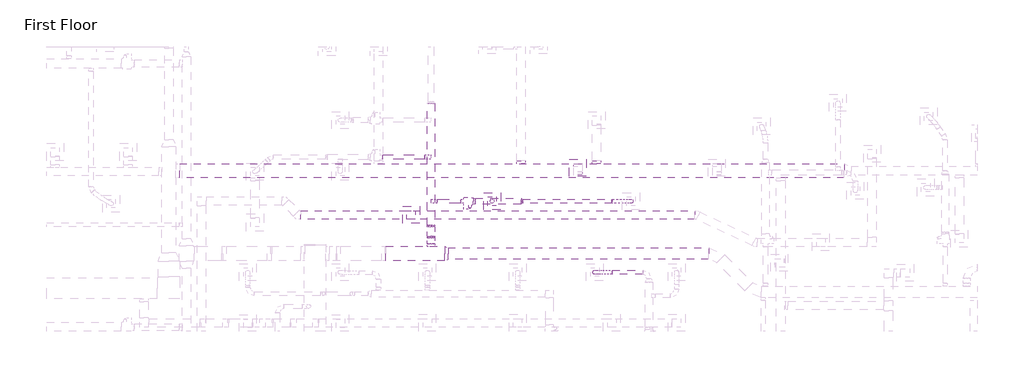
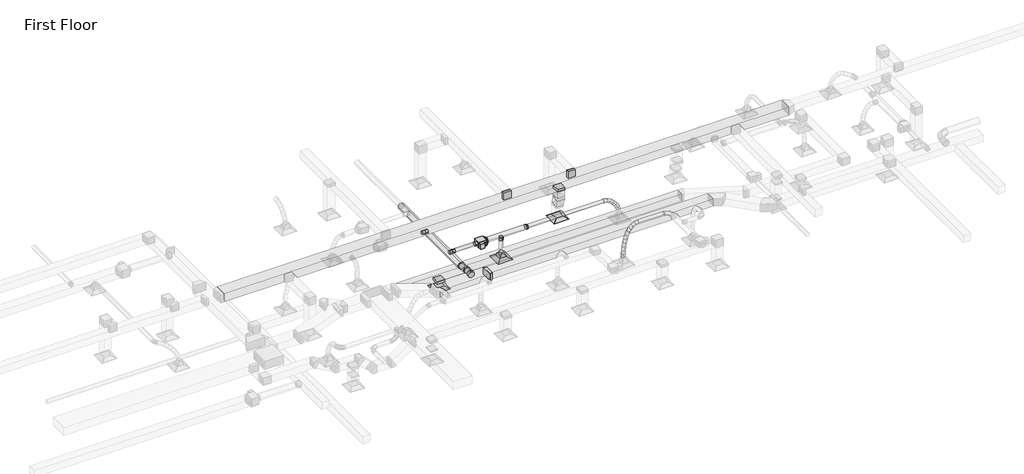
# One storey, part 50 of 61: 18 duct segments, 14 duct fittings, 3 air terminals, 1 proxy.
"""IFC4 building model written with IfcOpenShell, lengths in millimetres."""

from ifc_helpers import new_model, si_unit, point, frame, frame_2d, origin, place, context, project, spatial, polyline, circle_curve, ellipse_curve, trimmed, segment, composite_curve, outline, extrude, transform, mapped, element, save
from ifc_brep_helpers import plane_surface, cylinder_surface, advanced_brep
from components import m_exhaust_grill_er_600_x_600_face_300_x_300_connection_ff221211, m_vav_unit_single_duct_150_mm_ffdab17b, m_rectangular_takeoff_standard_c00386d1, m_rectangular_takeoff_standard_b44bfa45, m_rectangular_transition_angle_45_degree_130e6ca1, m_rectangular_to_round_transition_angle_45_degree_8f201c83, m_rectangular_to_round_transition_angle_45_degree_1b7ae117, m_round_elbow_1_5_d_46442800, m_round_takeoff_standard_e1559ea3, m_round_takeoff_standard_ce92a222, m_round_takeoff_standard_cf312e37, m_round_takeoff_standard_9070d994, m_round_transition_angle_45_degree_6d7b59ce

model = new_model("IFC4")

# Units and contexts
model_context = context("Model", 3, world=origin())
ifc_project = project(units=[si_unit("LENGTHUNIT", "METRE", prefix="MILLI")], contexts=[model_context])

# Site, building, storey
site = spatial("IfcSite", under=ifc_project)
building = spatial("IfcBuilding", under=site)
storey = spatial("IfcBuildingStorey", under=building, Name="First Floor", Elevation=0.0)

# Air terminals
placement = place(None, origin())
m_exhaust_grill_er_600_x_600_face_300_x_300_connection_shape = m_exhaust_grill_er_600_x_600_face_300_x_300_connection_ff221211(model_context)
element("IfcAirTerminal", 1, ObjectType="M_Exhaust Grill : ER-600 x 600 Face 300 x 300 Connection", at=placement, inside=storey, context=model_context, shape_type="MappedRepresentation", body=[
    mapped(m_exhaust_grill_er_600_x_600_face_300_x_300_connection_shape, transform((-31620.2006919, 45658.3786762, 2680.0), x_axis=(1.0, 0.0, 0.0), y_axis=(0.0, 1.0, 0.0), z_axis=(0.0, 0.0, 1.0))),
])
element("IfcAirTerminal", 2, ObjectType="M_Return Register : RR-600 x 600 Face 300 x 300 Connection", at=placement, inside=storey, context=model_context, shape_type="MappedRepresentation", body=[
    mapped(m_exhaust_grill_er_600_x_600_face_300_x_300_connection_shape, transform((-25759.2936376, 47318.7926945, 2680.0), x_axis=(1.0, 0.0, 0.0), y_axis=(0.0, 1.0, 0.0), z_axis=(0.0, 0.0, 1.0))),
])
element("IfcAirTerminal", 3, ObjectType="M_Supply Diffuser : SD-600 x 600 Face 300 x 300 Connection", at=placement, inside=storey, context=model_context, shape_type="MappedRepresentation", body=[
    mapped(m_exhaust_grill_er_600_x_600_face_300_x_300_connection_shape, transform((-28770.9396654, 46140.3464892, 2680.0), x_axis=(1.0, 0.0, 0.0), y_axis=(0.0, 1.0, 0.0), z_axis=(0.0, 0.0, 1.0))),
])

# Proxy
m_vav_unit_single_duct_150_mm_shape = m_vav_unit_single_duct_150_mm_ffdab17b(model_context)
element("IfcBuildingElementProxy", 4, Name="M_VAV Unit - Single Duct : 150 mm", ObjectType="M_VAV Unit - Single Duct : 150 mm", at=placement, inside=storey, context=model_context, shape_type="MappedRepresentation", body=[
    mapped(m_vav_unit_single_duct_150_mm_shape, transform((-29770.9396654, 46140.3464892, 3550.1), x_axis=(1.0, 0.0, 0.0), y_axis=(0.0, 1.0, 0.0), z_axis=(0.0, 0.0, 1.0))),
])

# Duct fittings
m_rectangular_takeoff_standard_shape = m_rectangular_takeoff_standard_c00386d1(model_context)
element("IfcDuctFitting", 5, ObjectType="M_Rectangular Takeoff : Standard", at=placement, inside=storey, context=model_context, shape_type="MappedRepresentation", body=[
    mapped(m_rectangular_takeoff_standard_shape, transform((-25759.2936376, 47211.3321421, 4084.5), x_axis=(0.0, 0.0, -1.0), y_axis=(0.0, 1.0, 0.0), z_axis=(1.0, 0.0, 0.0))),
])
element("IfcDuctFitting", 6, ObjectType="M_Rectangular Takeoff : Standard", at=placement, inside=storey, context=model_context, shape_type="MappedRepresentation", body=[
    mapped(m_rectangular_takeoff_standard_shape, transform((-31620.2006919, 45658.3786762, 3050.0), x_axis=(0.0, 0.0, -1.0), y_axis=(1.0, 0.0, 0.0), z_axis=(0.0, -1.0, 0.0))),
])
m_rectangular_takeoff_standard_2_shape = m_rectangular_takeoff_standard_b44bfa45(model_context)
element("IfcDuctFitting", 7, ObjectType="M_Rectangular Takeoff : Standard", at=placement, inside=storey, context=model_context, shape_type="MappedRepresentation", body=[
    mapped(m_rectangular_takeoff_standard_2_shape, transform((-27752.9739655, 47461.3321421, 4259.5), x_axis=(0.0, 1.0, 0.0), y_axis=(1.0, 0.0, 0.0), z_axis=(0.0, 0.0, -1.0))),
])
element("IfcDuctFitting", 8, ObjectType="M_Rectangular Takeoff : Standard", at=placement, inside=storey, context=model_context, shape_type="MappedRepresentation", body=[
    mapped(m_rectangular_takeoff_standard_2_shape, transform((-25098.324941, 47461.3321421, 4259.5), x_axis=(0.0, 1.0, 0.0), y_axis=(1.0, 0.0, 0.0), z_axis=(0.0, 0.0, -1.0))),
])
m_rectangular_transition_angle_45_degree_shape = m_rectangular_transition_angle_45_degree_130e6ca1(model_context)
element("IfcDuctFitting", 9, ObjectType="M_Rectangular Transition - Angle : 45 Degree", at=placement, inside=storey, context=model_context, shape_type="MappedRepresentation", body=[
    mapped(m_rectangular_transition_angle_45_degree_shape, transform((-30314.1170835, 44299.674982, 3659.6), x_axis=(-1.0, 0.0, 0.0), y_axis=(0.0, -1.0, 0.0), z_axis=(0.0, 0.0, 1.0))),
])
m_rectangular_to_round_transition_angle_45_degree_shape = m_rectangular_to_round_transition_angle_45_degree_8f201c83(model_context)
element("IfcDuctFitting", 10, ObjectType="M_Rectangular to Round Transition - Angle : 45 Degree", at=placement, inside=storey, context=model_context, shape_type="MappedRepresentation", body=[
    mapped(m_rectangular_to_round_transition_angle_45_degree_shape, transform((-28770.9396654, 46140.3464892, 2781.6), x_axis=(0.0, 0.0, 1.0), y_axis=(-1.0, 0.0, 0.0), z_axis=(0.0, -1.0, 0.0))),
])
m_rectangular_to_round_transition_angle_45_degree_2_shape = m_rectangular_to_round_transition_angle_45_degree_1b7ae117(model_context)
element("IfcDuctFitting", 11, ObjectType="M_Rectangular to Round Transition - Angle : 45 Degree", at=placement, inside=storey, context=model_context, shape_type="MappedRepresentation", body=[
    mapped(m_rectangular_to_round_transition_angle_45_degree_2_shape, transform((-29428.1396654, 46140.3464892, 3669.15), x_axis=(1.0, 0.0, 0.0), y_axis=(0.0, 1.0, 0.0), z_axis=(0.0, 0.0, 1.0))),
])
m_round_elbow_1_5_d_shape = m_round_elbow_1_5_d_46442800(model_context)
element("IfcDuctFitting", 12, ObjectType="M_Round Elbow : 1.5 D", at=placement, inside=storey, context=model_context, shape_type="MappedRepresentation", body=[
    mapped(m_round_elbow_1_5_d_shape, transform((-30920.6775238, 44881.055161, 3659.6), x_axis=(0.0, 1.0, 0.0), y_axis=(0.0, 0.0, -1.0), z_axis=(-1.0, 0.0, 0.0))),
])
element("IfcDuctFitting", 13, ObjectType="M_Round Elbow : 1.5 D", at=placement, inside=storey, context=model_context, shape_type="MappedRepresentation", body=[
    mapped(m_round_elbow_1_5_d_shape, transform((-30920.6775238, 45270.7666052, 3609.6), x_axis=(0.0, 0.9918697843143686, -0.12725694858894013), y_axis=(0.0, 0.12725694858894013, 0.9918697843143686), z_axis=(1.0, 0.0, 0.0))),
])
m_round_takeoff_standard_shape = m_round_takeoff_standard_e1559ea3(model_context)
element("IfcDuctFitting", 14, ObjectType="M_Round Takeoff : Standard", at=placement, inside=storey, context=model_context, shape_type="MappedRepresentation", body=[
    mapped(m_round_takeoff_standard_shape, transform((-28770.9396654, 46140.3464892, 3569.2), x_axis=(0.0, 0.0, -1.0), y_axis=(1.0, 0.0, 0.0), z_axis=(0.0, -1.0, 0.0))),
])
m_round_takeoff_standard_2_shape = m_round_takeoff_standard_ce92a222(model_context)
element("IfcDuctFitting", 15, ObjectType="M_Round Takeoff : Standard", at=placement, inside=storey, context=model_context, shape_type="MappedRepresentation", body=[
    mapped(m_round_takeoff_standard_2_shape, transform((-30920.6775238, 44549.674982, 3659.6), x_axis=(0.0, 1.0, 0.0), y_axis=(1.0, 0.0, 0.0), z_axis=(0.0, 0.0, -1.0))),
])
m_round_takeoff_standard_3_shape = m_round_takeoff_standard_cf312e37(model_context)
element("IfcDuctFitting", 16, ObjectType="M_Round Takeoff : Standard", at=placement, inside=storey, context=model_context, shape_type="MappedRepresentation", body=[
    mapped(m_round_takeoff_standard_3_shape, transform((-31035.2411773, 47690.0894014, 3659.6016929), x_axis=(-0.999999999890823, 0.0, 1.477681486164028e-05), y_axis=(0.0, 1.0000000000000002, 0.0), z_axis=(-1.477681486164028e-05, 0.0, -0.999999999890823))),
])
m_round_takeoff_standard_4_shape = m_round_takeoff_standard_9070d994(model_context)
element("IfcDuctFitting", 17, ObjectType="M_Round Takeoff : Standard", at=placement, inside=storey, context=model_context, shape_type="MappedRepresentation", body=[
    mapped(m_round_takeoff_standard_4_shape, transform((-30806.114324, 46141.1964892, 3659.6027325), x_axis=(0.9999999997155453, 0.0, 2.385182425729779e-05), y_axis=(0.0, -1.0000000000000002, 0.0), z_axis=(2.385182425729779e-05, 0.0, -0.9999999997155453))),
])
m_round_transition_angle_45_degree_shape = m_round_transition_angle_45_degree_6d7b59ce(model_context)
element("IfcDuctFitting", 18, ObjectType="M_Round Transition - Angle : 45 Degree", at=placement, inside=storey, context=model_context, shape_type="MappedRepresentation", body=[
    mapped(m_round_transition_angle_45_degree_shape, transform((-27752.9739655, 46140.3464892, 3669.2), x_axis=(1.0, 0.0, 0.0), y_axis=(0.0, 1.0, 0.0), z_axis=(0.0, 0.0, 1.0))),
])

# Duct segments
element("IfcDuctSegment", 19, ObjectType="Flex - Round", at=placement, inside=storey, context=model_context, shape_type="AdvancedBrep", body=[
    advanced_brep(
    [(-24552.9739655, 46215.3464892, 3669.2), (-24564.8586227, 46140.3464892, 3595.1476204), (-24552.9739655, 46065.3464892, 3669.2), (-24541.0893083, 46140.3464892, 3743.2523796), (-24414.657652, 46215.3464892, 3647.001632), (-24436.6091746, 46140.3464892, 3574.5648824), (-24414.657652, 46065.3464892, 3647.001632), (-24392.7061294, 46140.3464892, 3719.4383816), (-23890.7706619, 46215.3464892, 2962.6660172), (-23816.497544, 46140.3464892, 2973.0825407), (-23890.7706619, 46065.3464892, 2962.6660172), (-23965.0437797, 46140.3464892, 2952.2494937), (-24280.5326532, 46215.3464892, 3585.5927328), (-24319.0947066, 46140.3464892, 3520.7610861), (-24280.5326532, 46065.3464892, 3585.5927328), (-24241.9705997, 46140.3464892, 3650.4243796), (-24156.8273484, 46215.3464892, 3492.7526095), (-24207.3733869, 46140.3464892, 3436.914875), (-24156.8273484, 46065.3464892, 3492.7526095), (-24106.2813099, 46140.3464892, 3548.5903441), (-24049.7701174, 46215.3464892, 3376.2605692), (-24109.4892984, 46140.3464892, 3330.4043939), (-24049.7701174, 46065.3464892, 3376.2605692), (-23990.0509363, 46140.3464892, 3422.1167445), (-23965.5893396, 46215.3464892, 3243.895919), (-24032.7662559, 46140.3464892, 3209.7661798), (-23965.5893396, 46065.3464892, 3243.895919), (-23898.4124233, 46140.3464892, 3278.0256581), (-23910.5133946, 46215.3464892, 3103.4379659), (-23983.5603139, 46140.3464892, 3084.278258), (-23910.5133946, 46065.3464892, 3103.4379659), (-23837.4664752, 46140.3464892, 3122.5976739)],
    [
        (0, 1, circle_curve(frame((-24552.9739655, 46140.3464892, 3669.2), z_axis=(-0.9873650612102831, 0.0, 0.15846209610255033), x_axis=(0.0, 1.0, 0.0)), 75.0)),
        (1, 2, circle_curve(frame((-24552.9739655, 46140.3464892, 3669.2), z_axis=(-0.9873650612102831, 0.0, 0.15846209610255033), x_axis=(0.0, 1.0, 0.0)), 75.0)),
        (2, 3, circle_curve(frame((-24552.9739655, 46140.3464892, 3669.2), z_axis=(-0.9873650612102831, 0.0, 0.15846209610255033), x_axis=(0.0, 1.0, 0.0)), 75.0)),
        (3, 0, circle_curve(frame((-24552.9739655, 46140.3464892, 3669.2), z_axis=(-0.9873650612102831, 0.0, 0.15846209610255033), x_axis=(0.0, 1.0, 0.0)), 75.0)),
        (0, 4),
        (4, 5, ellipse_curve(frame((-24414.657652, 46140.3464892, 3647.001632), z_axis=(-0.9570207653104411, 0.0, 0.29001940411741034), x_axis=(-0.2900194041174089, 0.0, -0.9570207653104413)), 75.6898411, 75.0)),
        (5, 1),
        (5, 6, ellipse_curve(frame((-24414.657652, 46140.3464892, 3647.001632), z_axis=(-0.9570207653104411, 0.0, 0.29001940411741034), x_axis=(-0.2900194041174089, 0.0, -0.9570207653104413)), 75.6898411, 75.0)),
        (6, 2),
        (6, 7, ellipse_curve(frame((-24414.657652, 46140.3464892, 3647.001632), z_axis=(-0.9570207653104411, 0.0, 0.29001940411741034), x_axis=(-0.2900194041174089, 0.0, -0.9570207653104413)), 75.6898411, 75.0)),
        (7, 3),
        (7, 4, ellipse_curve(frame((-24414.657652, 46140.3464892, 3647.001632), z_axis=(-0.9570207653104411, 0.0, 0.29001940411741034), x_axis=(-0.2900194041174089, 0.0, -0.9570207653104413)), 75.6898411, 75.0)),
        (8, 9, circle_curve(frame((-23890.7706619, 46140.3464892, 2962.6660172), z_axis=(0.13888697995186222, 0.0, -0.9903082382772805), x_axis=(0.0, 1.0, 0.0)), 75.0)),
        (9, 10, circle_curve(frame((-23890.7706619, 46140.3464892, 2962.6660172), z_axis=(0.13888697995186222, 0.0, -0.9903082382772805), x_axis=(0.0, 1.0, 0.0)), 75.0)),
        (10, 11, circle_curve(frame((-23890.7706619, 46140.3464892, 2962.6660172), z_axis=(0.13888697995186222, 0.0, -0.9903082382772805), x_axis=(0.0, 1.0, 0.0)), 75.0)),
        (11, 8, circle_curve(frame((-23890.7706619, 46140.3464892, 2962.6660172), z_axis=(0.13888697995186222, 0.0, -0.9903082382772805), x_axis=(0.0, 1.0, 0.0)), 75.0)),
        (4, 12),
        (12, 13, ellipse_curve(frame((-24280.5326532, 46140.3464892, 3585.5927328), z_axis=(-0.8594572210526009, 0.0, 0.5112076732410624), x_axis=(-0.511207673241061, 0.0, -0.8594572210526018)), 75.4332446, 75.0)),
        (13, 5),
        (13, 14, ellipse_curve(frame((-24280.5326532, 46140.3464892, 3585.5927328), z_axis=(-0.8594572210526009, 0.0, 0.5112076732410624), x_axis=(-0.511207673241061, 0.0, -0.8594572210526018)), 75.4332446, 75.0)),
        (14, 6),
        (14, 15, ellipse_curve(frame((-24280.5326532, 46140.3464892, 3585.5927328), z_axis=(-0.8594572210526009, 0.0, 0.5112076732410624), x_axis=(-0.511207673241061, 0.0, -0.8594572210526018)), 75.4332446, 75.0)),
        (15, 7),
        (15, 12, ellipse_curve(frame((-24280.5326532, 46140.3464892, 3585.5927328), z_axis=(-0.8594572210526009, 0.0, 0.5112076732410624), x_axis=(-0.511207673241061, 0.0, -0.8594572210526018)), 75.4332446, 75.0)),
        (12, 16),
        (16, 17, ellipse_curve(frame((-24156.8273484, 46140.3464892, 3492.7526095), z_axis=(-0.7413628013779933, 0.0, 0.6711044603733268), x_axis=(-0.6711044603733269, 0.0, -0.7413628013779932)), 75.3176912, 75.0)),
        (17, 13),
        (17, 18, ellipse_curve(frame((-24156.8273484, 46140.3464892, 3492.7526095), z_axis=(-0.7413628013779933, 0.0, 0.6711044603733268), x_axis=(-0.6711044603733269, 0.0, -0.7413628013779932)), 75.3176912, 75.0)),
        (18, 14),
        (18, 19, ellipse_curve(frame((-24156.8273484, 46140.3464892, 3492.7526095), z_axis=(-0.7413628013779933, 0.0, 0.6711044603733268), x_axis=(-0.6711044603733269, 0.0, -0.7413628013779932)), 75.3176912, 75.0)),
        (19, 15),
        (19, 16, ellipse_curve(frame((-24156.8273484, 46140.3464892, 3492.7526095), z_axis=(-0.7413628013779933, 0.0, 0.6711044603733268), x_axis=(-0.6711044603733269, 0.0, -0.7413628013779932)), 75.3176912, 75.0)),
        (16, 20),
        (20, 21, ellipse_curve(frame((-24049.7701174, 46140.3464892, 3376.2605692), z_axis=(-0.6090291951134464, 0.0, 0.793147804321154), x_axis=(-0.7931478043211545, 0.0, -0.6090291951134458)), 75.2938869, 75.0)),
        (21, 17),
        (21, 22, ellipse_curve(frame((-24049.7701174, 46140.3464892, 3376.2605692), z_axis=(-0.6090291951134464, 0.0, 0.793147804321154), x_axis=(-0.7931478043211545, 0.0, -0.6090291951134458)), 75.2938869, 75.0)),
        (22, 18),
        (22, 23, ellipse_curve(frame((-24049.7701174, 46140.3464892, 3376.2605692), z_axis=(-0.6090291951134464, 0.0, 0.793147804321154), x_axis=(-0.7931478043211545, 0.0, -0.6090291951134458)), 75.2938869, 75.0)),
        (23, 19),
        (23, 20, ellipse_curve(frame((-24049.7701174, 46140.3464892, 3376.2605692), z_axis=(-0.6090291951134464, 0.0, 0.793147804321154), x_axis=(-0.7931478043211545, 0.0, -0.6090291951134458)), 75.2938869, 75.0)),
        (20, 24),
        (24, 25, ellipse_curve(frame((-23965.5893396, 46140.3464892, 3243.895919), z_axis=(-0.4529512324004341, 0.0, 0.8915352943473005), x_axis=(-0.8915352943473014, 0.0, -0.45295123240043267)), 75.3496992, 75.0)),
        (25, 21),
        (25, 26, ellipse_curve(frame((-23965.5893396, 46140.3464892, 3243.895919), z_axis=(-0.4529512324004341, 0.0, 0.8915352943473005), x_axis=(-0.8915352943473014, 0.0, -0.45295123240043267)), 75.3496992, 75.0)),
        (26, 22),
        (26, 27, ellipse_curve(frame((-23965.5893396, 46140.3464892, 3243.895919), z_axis=(-0.4529512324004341, 0.0, 0.8915352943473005), x_axis=(-0.8915352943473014, 0.0, -0.45295123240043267)), 75.3496992, 75.0)),
        (27, 23),
        (27, 24, ellipse_curve(frame((-23965.5893396, 46140.3464892, 3243.895919), z_axis=(-0.4529512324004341, 0.0, 0.8915352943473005), x_axis=(-0.8915352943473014, 0.0, -0.45295123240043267)), 75.3496992, 75.0)),
        (24, 28),
        (28, 29, ellipse_curve(frame((-23910.5133946, 46140.3464892, 3103.4379659), z_axis=(-0.2537109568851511, 0.0, 0.967280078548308), x_axis=(-0.9672800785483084, 0.0, -0.25371095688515)), 75.5178577, 75.0)),
        (29, 25),
        (29, 30, ellipse_curve(frame((-23910.5133946, 46140.3464892, 3103.4379659), z_axis=(-0.2537109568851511, 0.0, 0.967280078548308), x_axis=(-0.9672800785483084, 0.0, -0.25371095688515)), 75.5178577, 75.0)),
        (30, 26),
        (30, 31, ellipse_curve(frame((-23910.5133946, 46140.3464892, 3103.4379659), z_axis=(-0.2537109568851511, 0.0, 0.967280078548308), x_axis=(-0.9672800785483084, 0.0, -0.25371095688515)), 75.5178577, 75.0)),
        (31, 27),
        (31, 28, ellipse_curve(frame((-23910.5133946, 46140.3464892, 3103.4379659), z_axis=(-0.2537109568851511, 0.0, 0.967280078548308), x_axis=(-0.9672800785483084, 0.0, -0.25371095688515)), 75.5178577, 75.0)),
        (28, 8),
        (11, 29),
        (10, 30),
        (9, 31),
    ],
    [
        plane_surface(frame((-24552.9739655, 46215.3464892, 3669.2), z_axis=(-0.9873650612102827, 0.0, 0.15846209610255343), x_axis=(0.15846209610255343, 0.0, 0.9873650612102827))),
        cylinder_surface(frame((-24552.9739655, 46140.3464892, 3669.2), z_axis=(-0.9873650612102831, 0.0, 0.15846209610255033), x_axis=(0.0, 1.0, 0.0)), 75.0),
        plane_surface(frame((-23890.7706619, 46215.3464892, 2962.6660172), z_axis=(0.13888697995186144, 0.0, -0.9903082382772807), x_axis=(0.9903082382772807, 0.0, 0.13888697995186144))),
        cylinder_surface(frame((-24414.657652, 46140.3464892, 3647.001632), z_axis=(-0.9092317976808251, 0.0, 0.41629020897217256), x_axis=(0.0, 1.0, 0.0)), 75.0),
        cylinder_surface(frame((-24280.5326532, 46140.3464892, 3585.5927328), z_axis=(-0.7998102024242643, 0.0, 0.6002529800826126), x_axis=(0.0, 1.0, 0.0)), 75.0),
        cylinder_surface(frame((-24156.8273484, 46140.3464892, 3492.7526095), z_axis=(-0.6766612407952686, 0.0, 0.7362944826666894), x_axis=(0.0, 1.0, 0.0)), 75.0),
        cylinder_surface(frame((-24049.7701174, 46140.3464892, 3376.2605692), z_axis=(-0.5366428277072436, 0.0, 0.843809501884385), x_axis=(0.0, 1.0, 0.0)), 75.0),
        cylinder_surface(frame((-23965.5893396, 46140.3464892, 3243.895919), z_axis=(-0.36505532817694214, 0.0, 0.9309858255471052), x_axis=(0.0, 1.0, 0.0)), 75.0),
        cylinder_surface(frame((-23910.5133946, 46140.3464892, 3103.4379659), z_axis=(-0.13888697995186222, 0.0, 0.9903082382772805), x_axis=(0.0, 1.0, 0.0)), 75.0),
    ],
    [
        (0, [[1, 2, 3, 4]]),
        (1, [[-1, 5, 6, 7]]),
        (1, [[-2, -7, 8, 9]]),
        (1, [[-3, -9, 10, 11]]),
        (1, [[-4, -11, 12, -5]]),
        (2, [[13, 14, 15, 16]]),
        (3, [[-6, 17, 18, 19]]),
        (3, [[-8, -19, 20, 21]]),
        (3, [[-10, -21, 22, 23]]),
        (3, [[-12, -23, 24, -17]]),
        (4, [[-18, 25, 26, 27]]),
        (4, [[-20, -27, 28, 29]]),
        (4, [[-22, -29, 30, 31]]),
        (4, [[-24, -31, 32, -25]]),
        (5, [[-26, 33, 34, 35]]),
        (5, [[-28, -35, 36, 37]]),
        (5, [[-30, -37, 38, 39]]),
        (5, [[-32, -39, 40, -33]]),
        (6, [[-34, 41, 42, 43]]),
        (6, [[-36, -43, 44, 45]]),
        (6, [[-38, -45, 46, 47]]),
        (6, [[-40, -47, 48, -41]]),
        (7, [[-42, 49, 50, 51]]),
        (7, [[-44, -51, 52, 53]]),
        (7, [[-46, -53, 54, 55]]),
        (7, [[-48, -55, 56, -49]]),
        (8, [[-50, 57, -16, 58]]),
        (8, [[-52, -58, -15, 59]]),
        (8, [[-54, -59, -14, 60]]),
        (8, [[-56, -60, -13, -57]]),
    ],
),
])
element("IfcDuctSegment", 20, ObjectType="Flex - Round", at=placement, inside=storey, context=model_context, shape_type="AdvancedBrep", body=[
    advanced_brep(
    [(-24556.5951693, 43571.5953777, 4279.0), (-24544.6610354, 43646.5953777, 4204.9555779), (-24556.5951693, 43721.5953777, 4279.0), (-24568.5293031, 43646.5953777, 4353.0444221), (-24679.3468204, 43571.5953777, 4259.2154626), (-24655.2615737, 43646.5953777, 4187.1295001), (-24679.3468204, 43721.5953777, 4259.2154626), (-24703.4320672, 43646.5953777, 4331.3014252), (-25158.2437299, 43571.5953777, 2962.6660172), (-25233.2247221, 43646.5953777, 2964.3544526), (-25158.2437299, 43721.5953777, 2962.6660172), (-25083.2627378, 43646.5953777, 2960.9775817), (-24785.187211, 43571.5953777, 4203.4241482), (-24740.8632404, 43646.5953777, 4142.0065609), (-24785.187211, 43721.5953777, 4203.4241482), (-24829.5111816, 43646.5953777, 4264.8417354), (-24875.2163394, 43571.5953777, 4116.9695031), (-24817.4932429, 43646.5953777, 4068.4190478), (-24875.2163394, 43721.5953777, 4116.9695031), (-24932.9394359, 43646.5953777, 4165.5199584), (-24950.534204, 43571.5953777, 4005.1949739), (-24885.0837976, 43646.5953777, 3968.1121356), (-24950.534204, 43721.5953777, 4005.1949739), (-25015.9846104, 43646.5953777, 4042.2778122), (-25012.240803, 43571.5953777, 3873.444007), (-24942.5091174, 43646.5953777, 3845.5022118), (-25012.240803, 43721.5953777, 3873.444007), (-25081.9724887, 43646.5953777, 3901.3858023), (-25061.436135, 43571.5953777, 3727.060049), (-24989.3142542, 43646.5953777, 3706.2304372), (-25061.436135, 43721.5953777, 3727.060049), (-25133.5580157, 43646.5953777, 3747.8896607), (-25099.2201981, 43571.5953777, 3571.3865462), (-25025.7375485, 43646.5953777, 3556.1634155), (-25099.2201981, 43721.5953777, 3571.3865462), (-25172.7028476, 43646.5953777, 3586.6096768), (-25126.6929908, 43571.5953777, 3411.7669451), (-25052.4264369, 43646.5953777, 3401.0983754), (-25126.6929908, 43721.5953777, 3411.7669451), (-25200.9595447, 43646.5953777, 3422.4355148), (-25144.9545114, 43571.5953777, 3253.5446923), (-25070.2426868, 43646.5953777, 3246.7340563), (-25144.9545114, 43721.5953777, 3253.5446923), (-25219.6663361, 43646.5953777, 3260.3553283), (-25155.1047584, 43571.5953777, 3102.0632341), (-25080.161249, 43646.5953777, 3098.7102419), (-25155.1047584, 43721.5953777, 3102.0632341), (-25230.0482677, 43646.5953777, 3105.4162264)],
    [
        (0, 1, circle_curve(frame((-24556.5951693, 43646.5953777, 4279.0), z_axis=(0.9872589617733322, 0.0, 0.15912178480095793), x_axis=(0.0, -1.0, 0.0)), 75.0)),
        (1, 2, circle_curve(frame((-24556.5951693, 43646.5953777, 4279.0), z_axis=(0.9872589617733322, 0.0, 0.15912178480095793), x_axis=(0.0, -1.0, 0.0)), 75.0)),
        (2, 3, circle_curve(frame((-24556.5951693, 43646.5953777, 4279.0), z_axis=(0.9872589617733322, 0.0, 0.15912178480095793), x_axis=(0.0, -1.0, 0.0)), 75.0)),
        (3, 0, circle_curve(frame((-24556.5951693, 43646.5953777, 4279.0), z_axis=(0.9872589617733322, 0.0, 0.15912178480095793), x_axis=(0.0, -1.0, 0.0)), 75.0)),
        (0, 4),
        (4, 5, ellipse_curve(frame((-24679.3468204, 43646.5953777, 4259.2154626), z_axis=(0.9484596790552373, 0.0, 0.3168978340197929), x_axis=(0.3168978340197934, 0.0, -0.9484596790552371)), 76.0031914, 75.0)),
        (5, 1),
        (5, 6, ellipse_curve(frame((-24679.3468204, 43646.5953777, 4259.2154626), z_axis=(0.9484596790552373, 0.0, 0.3168978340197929), x_axis=(0.3168978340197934, 0.0, -0.9484596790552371)), 76.0031914, 75.0)),
        (6, 2),
        (6, 7, ellipse_curve(frame((-24679.3468204, 43646.5953777, 4259.2154626), z_axis=(0.9484596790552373, 0.0, 0.3168978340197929), x_axis=(0.3168978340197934, 0.0, -0.9484596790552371)), 76.0031914, 75.0)),
        (7, 3),
        (7, 4, ellipse_curve(frame((-24679.3468204, 43646.5953777, 4259.2154626), z_axis=(0.9484596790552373, 0.0, 0.3168978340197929), x_axis=(0.3168978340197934, 0.0, -0.9484596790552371)), 76.0031914, 75.0)),
        (8, 9, circle_curve(frame((-25158.2437299, 43646.5953777, 2962.6660172), z_axis=(-0.022512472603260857, 0.0, -0.9997465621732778), x_axis=(0.0, -1.0, 0.0)), 75.0)),
        (9, 10, circle_curve(frame((-25158.2437299, 43646.5953777, 2962.6660172), z_axis=(-0.022512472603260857, 0.0, -0.9997465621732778), x_axis=(0.0, -1.0, 0.0)), 75.0)),
        (10, 11, circle_curve(frame((-25158.2437299, 43646.5953777, 2962.6660172), z_axis=(-0.022512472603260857, 0.0, -0.9997465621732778), x_axis=(0.0, -1.0, 0.0)), 75.0)),
        (11, 8, circle_curve(frame((-25158.2437299, 43646.5953777, 2962.6660172), z_axis=(-0.022512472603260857, 0.0, -0.9997465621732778), x_axis=(0.0, -1.0, 0.0)), 75.0)),
        (4, 12),
        (12, 13, ellipse_curve(frame((-24785.187211, 43646.5953777, 4203.4241482), z_axis=(0.8108870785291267, 0.0, 0.5852026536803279), x_axis=(0.5852026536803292, 0.0, -0.8108870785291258)), 75.7412331, 75.0)),
        (13, 5),
        (13, 14, ellipse_curve(frame((-24785.187211, 43646.5953777, 4203.4241482), z_axis=(0.8108870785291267, 0.0, 0.5852026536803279), x_axis=(0.5852026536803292, 0.0, -0.8108870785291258)), 75.7412331, 75.0)),
        (14, 6),
        (14, 15, ellipse_curve(frame((-24785.187211, 43646.5953777, 4203.4241482), z_axis=(0.8108870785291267, 0.0, 0.5852026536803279), x_axis=(0.5852026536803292, 0.0, -0.8108870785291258)), 75.7412331, 75.0)),
        (15, 7),
        (15, 12, ellipse_curve(frame((-24785.187211, 43646.5953777, 4203.4241482), z_axis=(0.8108870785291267, 0.0, 0.5852026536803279), x_axis=(0.5852026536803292, 0.0, -0.8108870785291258)), 75.7412331, 75.0)),
        (12, 16),
        (16, 17, ellipse_curve(frame((-24875.2163394, 43646.5953777, 4116.9695031), z_axis=(0.6436820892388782, 0.0, 0.7652929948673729), x_axis=(0.765292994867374, 0.0, -0.643682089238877)), 75.4261399, 75.0)),
        (17, 13),
        (17, 18, ellipse_curve(frame((-24875.2163394, 43646.5953777, 4116.9695031), z_axis=(0.6436820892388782, 0.0, 0.7652929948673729), x_axis=(0.765292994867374, 0.0, -0.643682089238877)), 75.4261399, 75.0)),
        (18, 14),
        (18, 19, ellipse_curve(frame((-24875.2163394, 43646.5953777, 4116.9695031), z_axis=(0.6436820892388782, 0.0, 0.7652929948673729), x_axis=(0.765292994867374, 0.0, -0.643682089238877)), 75.4261399, 75.0)),
        (19, 15),
        (19, 16, ellipse_curve(frame((-24875.2163394, 43646.5953777, 4116.9695031), z_axis=(0.6436820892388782, 0.0, 0.7652929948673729), x_axis=(0.765292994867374, 0.0, -0.643682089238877)), 75.4261399, 75.0)),
        (16, 20),
        (20, 21, ellipse_curve(frame((-24950.534204, 43646.5953777, 4005.1949739), z_axis=(0.4929549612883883, 0.0, 0.8700548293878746), x_axis=(0.8700548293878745, 0.0, -0.49295496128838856)), 75.2256113, 75.0)),
        (21, 17),
        (21, 22, ellipse_curve(frame((-24950.534204, 43646.5953777, 4005.1949739), z_axis=(0.4929549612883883, 0.0, 0.8700548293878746), x_axis=(0.8700548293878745, 0.0, -0.49295496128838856)), 75.2256113, 75.0)),
        (22, 18),
        (22, 23, ellipse_curve(frame((-24950.534204, 43646.5953777, 4005.1949739), z_axis=(0.4929549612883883, 0.0, 0.8700548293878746), x_axis=(0.8700548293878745, 0.0, -0.49295496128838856)), 75.2256113, 75.0)),
        (23, 19),
        (23, 20, ellipse_curve(frame((-24950.534204, 43646.5953777, 4005.1949739), z_axis=(0.4929549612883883, 0.0, 0.8700548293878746), x_axis=(0.8700548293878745, 0.0, -0.49295496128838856)), 75.2256113, 75.0)),
        (20, 24),
        (24, 25, ellipse_curve(frame((-25012.240803, 43646.5953777, 3873.444007), z_axis=(0.3719543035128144, 0.0, 0.9282510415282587), x_axis=(0.9282510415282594, 0.0, -0.37195430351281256)), 75.1215808, 75.0)),
        (25, 21),
        (25, 26, ellipse_curve(frame((-25012.240803, 43646.5953777, 3873.444007), z_axis=(0.3719543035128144, 0.0, 0.9282510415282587), x_axis=(0.9282510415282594, 0.0, -0.37195430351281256)), 75.1215808, 75.0)),
        (26, 22),
        (26, 27, ellipse_curve(frame((-25012.240803, 43646.5953777, 3873.444007), z_axis=(0.3719543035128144, 0.0, 0.9282510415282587), x_axis=(0.9282510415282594, 0.0, -0.37195430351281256)), 75.1215808, 75.0)),
        (27, 23),
        (27, 24, ellipse_curve(frame((-25012.240803, 43646.5953777, 3873.444007), z_axis=(0.3719543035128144, 0.0, 0.9282510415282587), x_axis=(0.9282510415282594, 0.0, -0.37195430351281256)), 75.1215808, 75.0)),
        (24, 28),
        (28, 29, ellipse_curve(frame((-25061.436135, 43646.5953777, 3727.060049), z_axis=(0.2774708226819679, 0.0, 0.9607340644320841), x_axis=(0.9607340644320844, 0.0, -0.27747082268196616)), 75.0695572, 75.0)),
        (29, 25),
        (29, 30, ellipse_curve(frame((-25061.436135, 43646.5953777, 3727.060049), z_axis=(0.2774708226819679, 0.0, 0.9607340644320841), x_axis=(0.9607340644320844, 0.0, -0.27747082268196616)), 75.0695572, 75.0)),
        (30, 26),
        (30, 31, ellipse_curve(frame((-25061.436135, 43646.5953777, 3727.060049), z_axis=(0.2774708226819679, 0.0, 0.9607340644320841), x_axis=(0.9607340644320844, 0.0, -0.27747082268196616)), 75.0695572, 75.0)),
        (31, 27),
        (31, 28, ellipse_curve(frame((-25061.436135, 43646.5953777, 3727.060049), z_axis=(0.2774708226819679, 0.0, 0.9607340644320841), x_axis=(0.9607340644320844, 0.0, -0.27747082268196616)), 75.0695572, 75.0)),
        (28, 32),
        (32, 33, ellipse_curve(frame((-25099.2201981, 43646.5953777, 3571.3865462), z_axis=(0.20285891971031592, 0.0, 0.979207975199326), x_axis=(0.9792079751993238, 0.0, -0.20285891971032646)), 75.0429443, 75.0)),
        (33, 29),
        (33, 34, ellipse_curve(frame((-25099.2201981, 43646.5953777, 3571.3865462), z_axis=(0.20285891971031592, 0.0, 0.979207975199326), x_axis=(0.9792079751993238, 0.0, -0.20285891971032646)), 75.0429443, 75.0)),
        (34, 30),
        (34, 35, ellipse_curve(frame((-25099.2201981, 43646.5953777, 3571.3865462), z_axis=(0.20285891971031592, 0.0, 0.979207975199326), x_axis=(0.9792079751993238, 0.0, -0.20285891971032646)), 75.0429443, 75.0)),
        (35, 31),
        (35, 32, ellipse_curve(frame((-25099.2201981, 43646.5953777, 3571.3865462), z_axis=(0.20285891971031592, 0.0, 0.979207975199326), x_axis=(0.9792079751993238, 0.0, -0.20285891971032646)), 75.0429443, 75.0)),
        (32, 36),
        (36, 37, ellipse_curve(frame((-25126.6929908, 43646.5953777, 3411.7669451), z_axis=(0.1421927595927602, 0.0, 0.9898389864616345), x_axis=(0.9898389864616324, 0.0, -0.14219275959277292)), 75.0289239, 75.0)),
        (37, 33),
        (37, 38, ellipse_curve(frame((-25126.6929908, 43646.5953777, 3411.7669451), z_axis=(0.1421927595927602, 0.0, 0.9898389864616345), x_axis=(0.9898389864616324, 0.0, -0.14219275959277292)), 75.0289239, 75.0)),
        (38, 34),
        (38, 39, ellipse_curve(frame((-25126.6929908, 43646.5953777, 3411.7669451), z_axis=(0.1421927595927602, 0.0, 0.9898389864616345), x_axis=(0.9898389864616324, 0.0, -0.14219275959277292)), 75.0289239, 75.0)),
        (39, 35),
        (39, 36, ellipse_curve(frame((-25126.6929908, 43646.5953777, 3411.7669451), z_axis=(0.1421927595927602, 0.0, 0.9898389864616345), x_axis=(0.9898389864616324, 0.0, -0.14219275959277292)), 75.0289239, 75.0)),
        (36, 40),
        (40, 41, ellipse_curve(frame((-25144.9545114, 43646.5953777, 3253.5446923), z_axis=(0.09078232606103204, 0.0, 0.9958707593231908), x_axis=(0.9958707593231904, -1.1332010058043e-12, -0.09078232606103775)), 75.0216069, 75.0)),
        (41, 37),
        (41, 42, ellipse_curve(frame((-25144.9545114, 43646.5953777, 3253.5446923), z_axis=(0.09078232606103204, 0.0, 0.9958707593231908), x_axis=(0.9958707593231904, -1.1332010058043e-12, -0.09078232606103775)), 75.0216069, 75.0)),
        (42, 38),
        (42, 43, ellipse_curve(frame((-25144.9545114, 43646.5953777, 3253.5446923), z_axis=(0.09078232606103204, 0.0, 0.9958707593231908), x_axis=(0.9958707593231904, -1.1332010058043e-12, -0.09078232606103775)), 75.0216069, 75.0)),
        (43, 39),
        (43, 40, ellipse_curve(frame((-25144.9545114, 43646.5953777, 3253.5446923), z_axis=(0.09078232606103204, 0.0, 0.9958707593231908), x_axis=(0.9958707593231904, -1.1332010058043e-12, -0.09078232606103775)), 75.0216069, 75.0)),
        (40, 44),
        (44, 45, ellipse_curve(frame((-25155.1047584, 43646.5953777, 3102.0632341), z_axis=(0.04469555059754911, 0.0, 0.9990006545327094), x_axis=(0.9990006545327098, -1.3996857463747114e-12, -0.04469555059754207)), 75.0184788, 75.0)),
        (45, 41),
        (45, 46, ellipse_curve(frame((-25155.1047584, 43646.5953777, 3102.0632341), z_axis=(0.04469555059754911, 0.0, 0.9990006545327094), x_axis=(0.9990006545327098, -1.3996857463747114e-12, -0.04469555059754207)), 75.0184788, 75.0)),
        (46, 42),
        (46, 47, ellipse_curve(frame((-25155.1047584, 43646.5953777, 3102.0632341), z_axis=(0.04469555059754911, 0.0, 0.9990006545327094), x_axis=(0.9990006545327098, -1.3996857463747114e-12, -0.04469555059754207)), 75.0184788, 75.0)),
        (47, 43),
        (47, 44, ellipse_curve(frame((-25155.1047584, 43646.5953777, 3102.0632341), z_axis=(0.04469555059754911, 0.0, 0.9990006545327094), x_axis=(0.9990006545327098, -1.3996857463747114e-12, -0.04469555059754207)), 75.0184788, 75.0)),
        (44, 8),
        (11, 45),
        (10, 46),
        (9, 47),
    ],
    [
        plane_surface(frame((-24556.5951693, 43721.5953777, 4279.0), z_axis=(0.9872589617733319, 0.0, 0.1591217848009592), x_axis=(0.1591217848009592, 0.0, -0.9872589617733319))),
        cylinder_surface(frame((-24556.5951693, 43646.5953777, 4279.0), z_axis=(0.9872589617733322, 0.0, 0.15912178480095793), x_axis=(0.0, -1.0, 0.0)), 75.0),
        plane_surface(frame((-25158.2437299, 43721.5953777, 2962.6660172), z_axis=(-0.02251247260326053, 0.0, -0.9997465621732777), x_axis=(0.9997465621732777, 0.0, -0.02251247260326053))),
        cylinder_surface(frame((-24679.3468204, 43646.5953777, 4259.2154626), z_axis=(0.8846223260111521, 0.0, 0.4663082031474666), x_axis=(0.0, -1.0, 0.0)), 75.0),
        cylinder_surface(frame((-24785.187211, 43646.5953777, 4203.4241482), z_axis=(0.7212805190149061, 0.0, 0.6926430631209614), x_axis=(0.0, -1.0, 0.0)), 75.0),
        cylinder_surface(frame((-24875.2163394, 43646.5953777, 4116.9695031), z_axis=(0.5588103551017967, 0.0, 0.8292954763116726), x_axis=(0.0, -1.0, 0.0)), 75.0),
        cylinder_surface(frame((-24950.534204, 43646.5953777, 4005.1949739), z_axis=(0.424142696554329, 0.0, 0.9055953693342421), x_axis=(0.0, -1.0, 0.0)), 75.0),
        cylinder_surface(frame((-25012.240803, 43646.5953777, 3873.444007), z_axis=(0.3185619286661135, 0.0, 0.9479020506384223), x_axis=(0.0, -1.0, 0.0)), 75.0),
        cylinder_surface(frame((-25061.436135, 43646.5953777, 3727.060049), z_axis=(0.2358655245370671, 0.0, 0.9717857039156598), x_axis=(0.0, -1.0, 0.0)), 75.0),
        cylinder_surface(frame((-25099.2201981, 43646.5953777, 3571.3865462), z_axis=(0.16962013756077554, 0.0, 0.9855095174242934), x_axis=(0.0, -1.0, 0.0)), 75.0),
        cylinder_surface(frame((-25126.6929908, 43646.5953777, 3411.7669451), z_axis=(0.1146557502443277, 0.0, 0.993405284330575), x_axis=(0.0, -1.0, 0.0)), 75.0),
        cylinder_surface(frame((-25144.9545114, 43646.5953777, 3253.5446923), z_axis=(0.06685660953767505, 0.0, 0.9977625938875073), x_axis=(0.0, -1.0, 0.0)), 75.0),
        cylinder_surface(frame((-25155.1047584, 43646.5953777, 3102.0632341), z_axis=(0.022512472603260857, 0.0, 0.9997465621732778), x_axis=(0.0, -1.0, 0.0)), 75.0),
    ],
    [
        (0, [[1, 2, 3, 4]]),
        (1, [[-1, 5, 6, 7]]),
        (1, [[-2, -7, 8, 9]]),
        (1, [[-3, -9, 10, 11]]),
        (1, [[-4, -11, 12, -5]]),
        (2, [[13, 14, 15, 16]]),
        (3, [[-6, 17, 18, 19]]),
        (3, [[-8, -19, 20, 21]]),
        (3, [[-10, -21, 22, 23]]),
        (3, [[-12, -23, 24, -17]]),
        (4, [[-18, 25, 26, 27]]),
        (4, [[-20, -27, 28, 29]]),
        (4, [[-22, -29, 30, 31]]),
        (4, [[-24, -31, 32, -25]]),
        (5, [[-26, 33, 34, 35]]),
        (5, [[-28, -35, 36, 37]]),
        (5, [[-30, -37, 38, 39]]),
        (5, [[-32, -39, 40, -33]]),
        (6, [[-34, 41, 42, 43]]),
        (6, [[-36, -43, 44, 45]]),
        (6, [[-38, -45, 46, 47]]),
        (6, [[-40, -47, 48, -41]]),
        (7, [[-42, 49, 50, 51]]),
        (7, [[-44, -51, 52, 53]]),
        (7, [[-46, -53, 54, 55]]),
        (7, [[-48, -55, 56, -49]]),
        (8, [[-50, 57, 58, 59]]),
        (8, [[-52, -59, 60, 61]]),
        (8, [[-54, -61, 62, 63]]),
        (8, [[-56, -63, 64, -57]]),
        (9, [[-58, 65, 66, 67]]),
        (9, [[-60, -67, 68, 69]]),
        (9, [[-62, -69, 70, 71]]),
        (9, [[-64, -71, 72, -65]]),
        (10, [[-66, 73, 74, 75]]),
        (10, [[-68, -75, 76, 77]]),
        (10, [[-70, -77, 78, 79]]),
        (10, [[-72, -79, 80, -73]]),
        (11, [[-74, 81, 82, 83]]),
        (11, [[-76, -83, 84, 85]]),
        (11, [[-78, -85, 86, 87]]),
        (11, [[-80, -87, 88, -81]]),
        (12, [[-82, 89, -16, 90]]),
        (12, [[-84, -90, -15, 91]]),
        (12, [[-86, -91, -14, 92]]),
        (12, [[-88, -92, -13, -89]]),
    ],
),
])
element("IfcDuctSegment", 21, ObjectType="Mitered Elbows / Taps", at=placement, inside=storey, context=model_context, shape_type="SweptSolid", body=[
    extrude(outline(polyline([(-30434.8277616, 44549.674982), (-30434.8277616, 44049.674982), (-32503.3787145, 44049.674982), (-32503.3787145, 44549.674982), (-30434.8277616, 44549.674982)])), frame((0.0, 0.0, 3509.6), z_axis=(0.0, 0.0, 1.0), x_axis=(1.0, 0.0, 0.0)), (0.0, 0.0, 1.0), 300.0),
])
element("IfcDuctSegment", 22, ObjectType="Mitered Elbows / Taps", at=placement, inside=storey, context=model_context, shape_type="SweptSolid", body=[
    extrude(outline(polyline([(-16389.6648684, 47461.3321421), (-16389.6648684, 46961.3321421), (-39756.0542232, 46961.3321421), (-39756.0542232, 47461.3321421), (-16389.6648684, 47461.3321421)])), frame((0.0, 0.0, 4084.5), z_axis=(0.0, 0.0, 1.0), x_axis=(1.0, 0.0, 0.0)), (0.0, 0.0, 1.0), 350.0),
])
element("IfcDuctSegment", 23, ObjectType="Mitered Elbows / Taps", at=placement, inside=storey, context=model_context, shape_type="SweptSolid", body=[
    extrude(outline(polyline([(-25909.2936376, 47361.3321421), (-25609.2936376, 47361.3321421), (-25609.2936376, 47061.3321421), (-25909.2936376, 47061.3321421), (-25909.2936376, 47361.3321421)])), frame((0.0, 0.0, 3684.2478746), z_axis=(0.0, 0.0, 1.0), x_axis=(1.0, 0.0, 0.0)), (0.0, 0.0, 1.0), 300.2521254),
])
element("IfcDuctSegment", 24, ObjectType="Mitered Elbows / Taps", at=placement, inside=storey, context=model_context, shape_type="SweptSolid", body=[
    extrude(outline(polyline([(-150.0, -362.1320343), (-150.0, -62.1320343), (150.0, -62.1320343), (150.0, -362.1320343), (-150.0, -362.1320343)])), frame((-25759.2936376, 47512.1149029, 3336.5786969), z_axis=(0.0, -0.258819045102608, 0.965925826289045), x_axis=(1.0, 0.0, 0.0)), (0.0, 0.0, 1.0), 325.6999423),
])
element("IfcDuctSegment", 25, ObjectType="Mitered Elbows / Taps", at=placement, inside=storey, context=model_context, shape_type="SweptSolid", body=[
    extrude(outline(polyline([(-31470.2006919, 45808.3786762), (-31470.2006919, 45508.3786762), (-31770.2006919, 45508.3786762), (-31770.2006919, 45808.3786762), (-31470.2006919, 45808.3786762)])), frame((0.0, 0.0, 2781.6), z_axis=(0.0, 0.0, 1.0), x_axis=(1.0, 0.0, 0.0)), (0.0, 0.0, 1.0), 168.4),
])
element("IfcDuctSegment", 26, ObjectType="Mitered Elbows / Taps", at=placement, inside=storey, context=model_context, shape_type="SweptSolid", body=[
    extrude(outline(polyline([(-21644.6490526, 45808.3786762), (-21644.6490526, 45508.3786762), (-35499.2628189, 45508.3786762), (-35499.2628189, 45808.3786762), (-21644.6490526, 45808.3786762)])), frame((0.0, 0.0, 3050.0), z_axis=(0.0, 0.0, 1.0), x_axis=(1.0, 0.0, 0.0)), (0.0, 0.0, 1.0), 300.0),
])
element("IfcDuctSegment", 27, ObjectType="Radius Elbows / Taps", at=placement, inside=storey, context=model_context, shape_type="SweptSolid", body=[
    extrude(outline(polyline([(-21162.6452209, 44499.674982), (-21162.6452209, 44099.674982), (-30314.1170835, 44099.674982), (-30314.1170835, 44499.674982), (-21162.6452209, 44499.674982)])), frame((0.0, 0.0, 3509.6), z_axis=(0.0, 0.0, 1.0), x_axis=(1.0, 0.0, 0.0)), (0.0, 0.0, 1.0), 300.0),
])
element("IfcDuctSegment", 28, ObjectType="Taps", at=placement, inside=storey, context=model_context, shape_type="SweptSolid", body=[
    extrude(outline(composite_curve([segment(trimmed(circle_curve(frame_2d((3609.6, -30920.6775238)), 125.0), [point((3609.6, -31045.6775238))], [point((3484.6, -30920.6775238))], False, "CARTESIAN"), True, "CONTINUOUS"), segment(trimmed(circle_curve(frame_2d((3609.6, -30920.6775238)), 125.0), [point((3484.6, -30920.6775238))], [point((3609.6, -30795.6775238))], False, "CARTESIAN"), True, "CONTINUOUS"), segment(trimmed(circle_curve(frame_2d((3609.6, -30920.6775238)), 125.0), [point((3609.6, -30795.6775238))], [point((3734.6, -30920.6775238))], False, "CARTESIAN"), True, "CONTINUOUS"), segment(trimmed(circle_curve(frame_2d((3609.6, -30920.6775238)), 125.0), [point((3734.6, -30920.6775238))], [point((3609.6, -31045.6775238))], False, "CARTESIAN"), True, "CONTINUOUS")], self_intersect=False)), frame((0.0, 45294.7246752, 0.0), z_axis=(0.0, 1.0, 0.0), x_axis=(0.0, 0.0, 1.0)), (0.0, 0.0, 1.0), 4281.1640328),
])
element("IfcDuctSegment", 29, ObjectType="Taps", at=placement, inside=storey, context=model_context, shape_type="SweptSolid", body=[
    extrude(outline(composite_curve([segment(trimmed(circle_curve(frame_2d((3659.6, -30920.6775238)), 125.0), [point((3659.6, -30795.6775238))], [point((3784.6, -30920.6775238))], False, "CARTESIAN"), True, "CONTINUOUS"), segment(trimmed(circle_curve(frame_2d((3659.6, -30920.6775238)), 125.0), [point((3784.6, -30920.6775238))], [point((3659.6, -31045.6775238))], False, "CARTESIAN"), True, "CONTINUOUS"), segment(trimmed(circle_curve(frame_2d((3659.6, -30920.6775238)), 125.0), [point((3659.6, -31045.6775238))], [point((3534.6, -30920.6775238))], False, "CARTESIAN"), True, "CONTINUOUS"), segment(trimmed(circle_curve(frame_2d((3659.6, -30920.6775238)), 125.0), [point((3534.6, -30920.6775238))], [point((3659.6, -30795.6775238))], False, "CARTESIAN"), True, "CONTINUOUS")], self_intersect=False)), frame((0.0, 44649.674982, 0.0), z_axis=(0.0, 1.0, 0.0), x_axis=(0.0, 0.0, 1.0)), (0.0, 0.0, 1.0), 207.422109),
])
element("IfcDuctSegment", 30, ObjectType="Taps", at=placement, inside=storey, context=model_context, shape_type="SweptSolid", body=[
    extrude(outline(composite_curve([segment(trimmed(circle_curve(frame_2d((0.0, -125.0)), 125.0), [point((125.0, -125.0))], [point((0.0, -250.0))], False, "CARTESIAN"), True, "CONTINUOUS"), segment(trimmed(circle_curve(frame_2d((0.0, -125.0)), 125.0), [point((0.0, -250.0))], [point((-125.0, -125.0))], False, "CARTESIAN"), True, "CONTINUOUS"), segment(trimmed(circle_curve(frame_2d((0.0, -125.0)), 125.0), [point((-125.0, -125.0))], [point((0.0, 0.0))], False, "CARTESIAN"), True, "CONTINUOUS"), segment(trimmed(circle_curve(frame_2d((0.0, -125.0)), 125.0), [point((0.0, 0.0))], [point((125.0, -125.0))], False, "CARTESIAN"), True, "CONTINUOUS")], self_intersect=False)), frame((-30920.6775238, 45262.910438, 3736.6325539), z_axis=(0.0, -0.9918697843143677, 0.12725694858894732), x_axis=(1.0, 0.0, 0.0)), (0.0, 0.0, 1.0), 344.9897135),
])
element("IfcDuctSegment", 31, ObjectType="Taps", at=placement, inside=storey, context=model_context, shape_type="SweptSolid", body=[
    extrude(outline(composite_curve([segment(trimmed(circle_curve(frame_2d((0.0, 75.0)), 75.0), [point((-75.0, 75.0))], [point((0.0, 149.9999999))], False, "CARTESIAN"), True, "CONTINUOUS"), segment(trimmed(circle_curve(frame_2d((0.0, 75.0)), 75.0), [point((0.0, 149.9999999))], [point((75.0, 75.0))], False, "CARTESIAN"), True, "CONTINUOUS"), segment(trimmed(circle_curve(frame_2d((0.0, 75.0)), 75.0), [point((75.0, 75.0))], [point((0.0, 0.0))], False, "CARTESIAN"), True, "CONTINUOUS"), segment(trimmed(circle_curve(frame_2d((0.0, 75.0)), 75.0), [point((0.0, 0.0))], [point((-75.0, 75.0))], False, "CARTESIAN"), True, "CONTINUOUS")], self_intersect=False)), frame((-31143.1523803, 47690.0894014, 3584.6032875), z_axis=(-0.9999999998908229, 0.0, 1.477681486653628e-05), x_axis=(0.0, -1.0, 0.0)), (0.0, 0.0, 1.0), 1469.3658116),
])
element("IfcDuctSegment", 32, ObjectType="Taps", at=placement, inside=storey, context=model_context, shape_type="SweptSolid", body=[
    extrude(outline(composite_curve([segment(trimmed(circle_curve(frame_2d((0.0, 75.0)), 75.0), [point((-75.0, 75.0))], [point((0.0, 150.0))], False, "CARTESIAN"), True, "CONTINUOUS"), segment(trimmed(circle_curve(frame_2d((0.0, 75.0)), 75.0), [point((0.0, 150.0))], [point((75.0, 75.0))], False, "CARTESIAN"), True, "CONTINUOUS"), segment(trimmed(circle_curve(frame_2d((0.0, 75.0)), 75.0), [point((75.0, 75.0))], [point((0.0, 0.0))], False, "CARTESIAN"), True, "CONTINUOUS"), segment(trimmed(circle_curve(frame_2d((0.0, 75.0)), 75.0), [point((0.0, 0.0))], [point((-75.0, 75.0))], False, "CARTESIAN"), True, "CONTINUOUS")], self_intersect=False)), frame((-30698.2024404, 46141.1964892, 3584.6053064), z_axis=(0.9999999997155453, 0.0, 2.3851824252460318e-05), x_axis=(0.0, 1.0, 0.0)), (0.0, 0.0, 1.0), 825.6645641),
])
element("IfcDuctSegment", 33, ObjectType="Taps", at=placement, inside=storey, context=model_context, shape_type="SweptSolid", body=[
    extrude(outline(composite_curve([segment(trimmed(circle_curve(frame_2d((46140.3464892, 3669.2)), 100.0), [point((46040.3464892, 3669.2))], [point((46140.3464892, 3769.2))], False, "CARTESIAN"), True, "CONTINUOUS"), segment(trimmed(circle_curve(frame_2d((46140.3464892, 3669.2)), 100.0), [point((46140.3464892, 3769.2))], [point((46240.3464892, 3669.2))], False, "CARTESIAN"), True, "CONTINUOUS"), segment(trimmed(circle_curve(frame_2d((46140.3464892, 3669.2)), 100.0), [point((46240.3464892, 3669.2))], [point((46140.3464892, 3569.2))], False, "CARTESIAN"), True, "CONTINUOUS"), segment(trimmed(circle_curve(frame_2d((46140.3464892, 3669.2)), 100.0), [point((46140.3464892, 3569.2))], [point((46040.3464892, 3669.2))], False, "CARTESIAN"), True, "CONTINUOUS")], self_intersect=False)), frame((-29367.7843264, 0.0, 0.0), z_axis=(1.0, 0.0, 0.0), x_axis=(0.0, 1.0, 0.0)), (0.0, 0.0, 1.0), 1614.8103609),
])
element("IfcDuctSegment", 34, ObjectType="Taps", at=placement, inside=storey, context=model_context, shape_type="SweptSolid", body=[
    extrude(outline(composite_curve([segment(trimmed(circle_curve(frame_2d((46140.3464892, 3669.2)), 75.0), [point((46065.3464892, 3669.2))], [point((46140.3464892, 3744.2))], False, "CARTESIAN"), True, "CONTINUOUS"), segment(trimmed(circle_curve(frame_2d((46140.3464892, 3669.2)), 75.0), [point((46140.3464892, 3744.2))], [point((46215.3464892, 3669.2))], False, "CARTESIAN"), True, "CONTINUOUS"), segment(trimmed(circle_curve(frame_2d((46140.3464892, 3669.2)), 75.0), [point((46215.3464892, 3669.2))], [point((46140.3464892, 3594.2))], False, "CARTESIAN"), True, "CONTINUOUS"), segment(trimmed(circle_curve(frame_2d((46140.3464892, 3669.2)), 75.0), [point((46140.3464892, 3594.2))], [point((46065.3464892, 3669.2))], False, "CARTESIAN"), True, "CONTINUOUS")], self_intersect=False)), frame((-27692.6186264, 0.0, 0.0), z_axis=(1.0, 0.0, 0.0), x_axis=(0.0, 1.0, 0.0)), (0.0, 0.0, 1.0), 3139.6446609),
])
element("IfcDuctSegment", 35, ObjectType="Taps", at=placement, inside=storey, context=model_context, shape_type="SweptSolid", body=[
    extrude(outline(composite_curve([segment(trimmed(circle_curve(frame_2d((-28770.9396654, 46140.3464892)), 75.0), [point((-28845.9396654, 46140.3464892))], [point((-28770.9396654, 46215.3464892))], False, "CARTESIAN"), True, "CONTINUOUS"), segment(trimmed(circle_curve(frame_2d((-28770.9396654, 46140.3464892)), 75.0), [point((-28770.9396654, 46215.3464892))], [point((-28695.9396654, 46140.3464892))], False, "CARTESIAN"), True, "CONTINUOUS"), segment(trimmed(circle_curve(frame_2d((-28770.9396654, 46140.3464892)), 75.0), [point((-28695.9396654, 46140.3464892))], [point((-28770.9396654, 46065.3464892))], False, "CARTESIAN"), True, "CONTINUOUS"), segment(trimmed(circle_curve(frame_2d((-28770.9396654, 46140.3464892)), 75.0), [point((-28770.9396654, 46065.3464892))], [point((-28845.9396654, 46140.3464892))], False, "CARTESIAN"), True, "CONTINUOUS")], self_intersect=False)), frame((0.0, 0.0, 2962.6660172), z_axis=(0.0, 0.0, 1.0), x_axis=(1.0, 0.0, 0.0)), (0.0, 0.0, 1.0), 506.5339828),
])
element("IfcDuctSegment", 36, ObjectType="Taps", at=placement, inside=storey, context=model_context, shape_type="SweptSolid", body=[
    extrude(outline(composite_curve([segment(trimmed(circle_curve(frame_2d((43646.5953777, 4279.0)), 75.0), [point((43721.5953777, 4279.0))], [point((43646.5953777, 4204.0))], False, "CARTESIAN"), True, "CONTINUOUS"), segment(trimmed(circle_curve(frame_2d((43646.5953777, 4279.0)), 75.0), [point((43646.5953777, 4204.0))], [point((43571.5953777, 4279.0))], False, "CARTESIAN"), True, "CONTINUOUS"), segment(trimmed(circle_curve(frame_2d((43646.5953777, 4279.0)), 75.0), [point((43571.5953777, 4279.0))], [point((43646.5953777, 4354.0))], False, "CARTESIAN"), True, "CONTINUOUS"), segment(trimmed(circle_curve(frame_2d((43646.5953777, 4279.0)), 75.0), [point((43646.5953777, 4354.0))], [point((43721.5953777, 4279.0))], False, "CARTESIAN"), True, "CONTINUOUS")], self_intersect=False)), frame((-24556.5951693, 0.0, 0.0), z_axis=(1.0, 0.0, 0.0), x_axis=(0.0, 1.0, 0.0)), (0.0, 0.0, 1.0), 1075.0),
])

save(model, "model.ifc")
